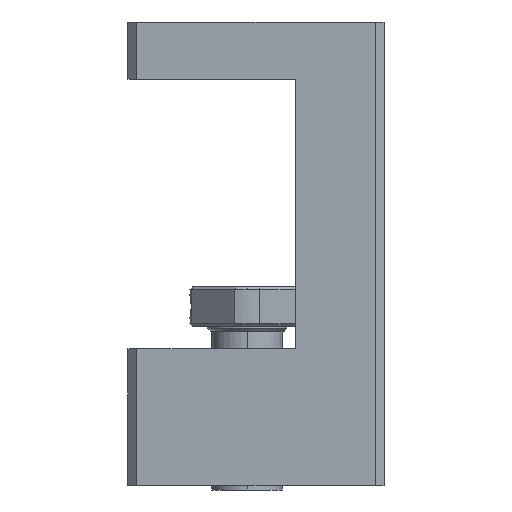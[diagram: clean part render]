
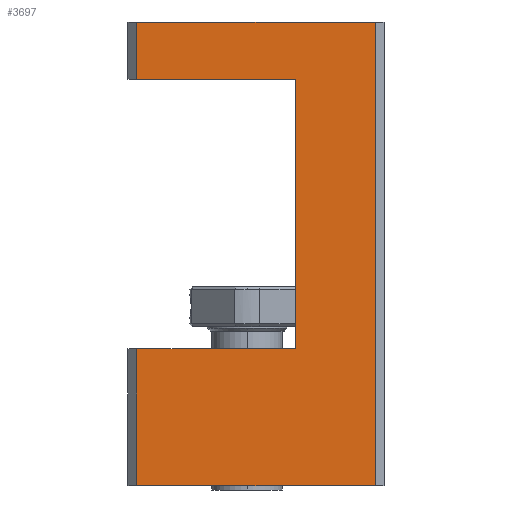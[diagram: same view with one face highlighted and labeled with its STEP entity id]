
A CAD part, left-side view. The second image highlights one B-rep face of the part: STEP entity #3697.
In plain terms, the highlighted planar face has unit normal (-1, 0, 0).
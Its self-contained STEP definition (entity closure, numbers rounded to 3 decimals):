
#17 = VERTEX_POINT ( 'NONE', #2610 ) ;
#152 = CARTESIAN_POINT ( 'NONE',  ( -17., -5.5, 15.5 ) ) ;
#340 = CARTESIAN_POINT ( 'NONE',  ( -17., 13.5, 52.5 ) ) ;
#441 = VECTOR ( 'NONE', #4987, 1000. ) ;
#479 = EDGE_CURVE ( 'NONE', #1954, #3511, #5150, .T. ) ;
#507 = LINE ( 'NONE', #3174, #8493 ) ;
#521 = ORIENTED_EDGE ( 'NONE', *, *, #479, .T. ) ;
#750 = EDGE_CURVE ( 'NONE', #17, #7534, #4883, .T. ) ;
#780 = ORIENTED_EDGE ( 'NONE', *, *, #2631, .T. ) ;
#994 = ORIENTED_EDGE ( 'NONE', *, *, #8532, .T. ) ;
#1019 = VERTEX_POINT ( 'NONE', #9554 ) ;
#1038 = CARTESIAN_POINT ( 'NONE',  ( -17., -14.5, 52.5 ) ) ;
#1095 = CARTESIAN_POINT ( 'NONE',  ( -17., 12.5, 52.5 ) ) ;
#1138 = ORIENTED_EDGE ( 'NONE', *, *, #7108, .F. ) ;
#1465 = PLANE ( 'NONE',  #1801 ) ;
#1553 = ORIENTED_EDGE ( 'NONE', *, *, #7774, .T. ) ;
#1713 = LINE ( 'NONE', #4073, #10050 ) ;
#1801 = AXIS2_PLACEMENT_3D ( 'NONE', #4794, #4844, #10539 ) ;
#1954 = VERTEX_POINT ( 'NONE', #7798 ) ;
#2266 = LINE ( 'NONE', #5519, #7451 ) ;
#2280 = EDGE_CURVE ( 'NONE', #1954, #9398, #7621, .T. ) ;
#2610 = CARTESIAN_POINT ( 'NONE',  ( -17., 12.5, 0. ) ) ;
#2631 = EDGE_CURVE ( 'NONE', #7534, #9398, #9443, .T. ) ;
#2744 = VERTEX_POINT ( 'NONE', #6299 ) ;
#2756 = CARTESIAN_POINT ( 'NONE',  ( -17., -14.5, 0. ) ) ;
#3174 = CARTESIAN_POINT ( 'NONE',  ( -17., 12.5, 52.5 ) ) ;
#3511 = VERTEX_POINT ( 'NONE', #8939 ) ;
#3697 = ADVANCED_FACE ( 'NONE', ( #8063 ), #1465, .F. ) ;
#3722 = ORIENTED_EDGE ( 'NONE', *, *, #9138, .T. ) ;
#3783 = VECTOR ( 'NONE', #6021, 1000. ) ;
#4073 = CARTESIAN_POINT ( 'NONE',  ( -17., 13.5, 15.5 ) ) ;
#4335 = LINE ( 'NONE', #10090, #3783 ) ;
#4417 = DIRECTION ( 'NONE',  ( 0., -1., 0. ) ) ;
#4794 = CARTESIAN_POINT ( 'NONE',  ( -17., 13.5, 52.5 ) ) ;
#4844 = DIRECTION ( 'NONE',  ( 1., 0., 0. ) ) ;
#4883 = LINE ( 'NONE', #7402, #441 ) ;
#4972 = EDGE_LOOP ( 'NONE', ( #1138, #3722, #1553, #5743, #780, #5318, #521, #994 ) ) ;
#4987 = DIRECTION ( 'NONE',  ( 0., -1., 0. ) ) ;
#5150 = LINE ( 'NONE', #1095, #9479 ) ;
#5318 = ORIENTED_EDGE ( 'NONE', *, *, #2280, .F. ) ;
#5519 = CARTESIAN_POINT ( 'NONE',  ( -17., 13.5, 46. ) ) ;
#5743 = ORIENTED_EDGE ( 'NONE', *, *, #750, .T. ) ;
#6021 = DIRECTION ( 'NONE',  ( 0., 0., 1. ) ) ;
#6094 = DIRECTION ( 'NONE',  ( 0., 0., 1. ) ) ;
#6299 = CARTESIAN_POINT ( 'NONE',  ( -17., -5.5, 46. ) ) ;
#6874 = CARTESIAN_POINT ( 'NONE',  ( -17., -14.5, 52.5 ) ) ;
#7108 = EDGE_CURVE ( 'NONE', #9688, #2744, #4335, .T. ) ;
#7402 = CARTESIAN_POINT ( 'NONE',  ( -17., 13.5, 0. ) ) ;
#7451 = VECTOR ( 'NONE', #8812, 1000. ) ;
#7534 = VERTEX_POINT ( 'NONE', #2756 ) ;
#7568 = DIRECTION ( 'NONE',  ( 0., 0., -1. ) ) ;
#7621 = LINE ( 'NONE', #340, #9002 ) ;
#7774 = EDGE_CURVE ( 'NONE', #1019, #17, #507, .T. ) ;
#7798 = CARTESIAN_POINT ( 'NONE',  ( -17., 12.5, 52.5 ) ) ;
#8063 = FACE_OUTER_BOUND ( 'NONE', #4972, .T. ) ;
#8493 = VECTOR ( 'NONE', #8761, 1000. ) ;
#8532 = EDGE_CURVE ( 'NONE', #3511, #2744, #2266, .T. ) ;
#8761 = DIRECTION ( 'NONE',  ( 0., 0., -1. ) ) ;
#8812 = DIRECTION ( 'NONE',  ( 0., -1., 0. ) ) ;
#8939 = CARTESIAN_POINT ( 'NONE',  ( -17., 12.5, 46. ) ) ;
#8981 = VECTOR ( 'NONE', #6094, 1000. ) ;
#9002 = VECTOR ( 'NONE', #4417, 1000. ) ;
#9138 = EDGE_CURVE ( 'NONE', #9688, #1019, #1713, .T. ) ;
#9398 = VERTEX_POINT ( 'NONE', #1038 ) ;
#9443 = LINE ( 'NONE', #6874, #8981 ) ;
#9479 = VECTOR ( 'NONE', #7568, 1000. ) ;
#9554 = CARTESIAN_POINT ( 'NONE',  ( -17., 12.5, 15.5 ) ) ;
#9688 = VERTEX_POINT ( 'NONE', #152 ) ;
#9944 = DIRECTION ( 'NONE',  ( 0., 1., 0. ) ) ;
#10050 = VECTOR ( 'NONE', #9944, 1000. ) ;
#10090 = CARTESIAN_POINT ( 'NONE',  ( -17., -5.5, 52.5 ) ) ;
#10539 = DIRECTION ( 'NONE',  ( 0., 1., 0. ) ) ;
